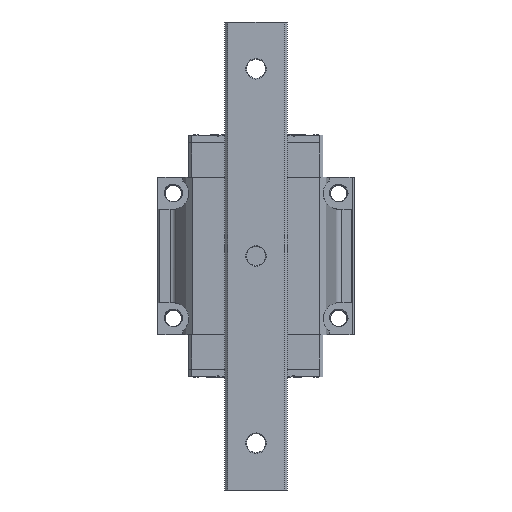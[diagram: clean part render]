
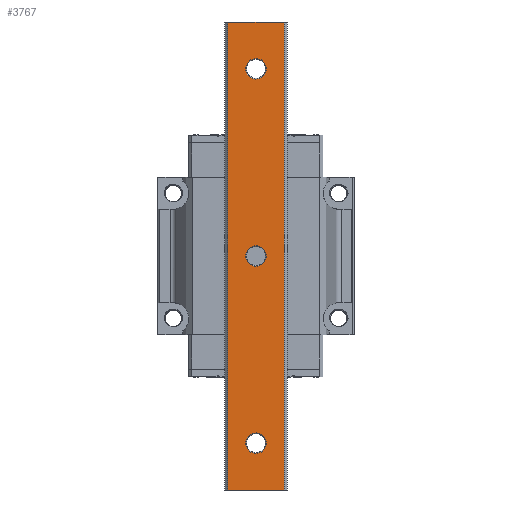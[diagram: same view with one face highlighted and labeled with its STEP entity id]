
A CAD part, front view. The second image highlights one B-rep face of the part: STEP entity #3767.
In plain terms, the highlighted planar face has unit normal (0, -1, 0).
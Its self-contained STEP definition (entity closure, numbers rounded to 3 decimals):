
#3291=FACE_BOUND('',#6319,.T.);
#3292=FACE_BOUND('',#6320,.T.);
#3293=FACE_BOUND('',#6321,.T.);
#3294=FACE_BOUND('',#6322,.T.);
#3767=ADVANCED_FACE('',(#3291,#3292,#3293,#3294),#4798,.T.);
#4798=PLANE('',#21255);
#6319=EDGE_LOOP('',(#10800,#10801,#10802,#10803));
#6320=EDGE_LOOP('',(#10804,#10805,#10806,#10807));
#6321=EDGE_LOOP('',(#10808,#10809,#10810,#10811));
#6322=EDGE_LOOP('',(#10812,#10813,#10814,#10815));
#7474=LINE('',#27362,#9022);
#7513=LINE('',#27486,#9061);
#7514=LINE('',#27488,#9062);
#7515=LINE('',#27490,#9063);
#9022=VECTOR('',#22708,1.);
#9061=VECTOR('',#22831,1.);
#9062=VECTOR('',#22834,1.);
#9063=VECTOR('',#22835,1.);
#10800=ORIENTED_EDGE('',*,*,#18003,.T.);
#10801=ORIENTED_EDGE('',*,*,#18004,.F.);
#10802=ORIENTED_EDGE('',*,*,#18005,.F.);
#10803=ORIENTED_EDGE('',*,*,#17941,.T.);
#10804=ORIENTED_EDGE('',*,*,#18006,.F.);
#10805=ORIENTED_EDGE('',*,*,#18007,.F.);
#10806=ORIENTED_EDGE('',*,*,#18008,.F.);
#10807=ORIENTED_EDGE('',*,*,#18009,.F.);
#10808=ORIENTED_EDGE('',*,*,#18010,.F.);
#10809=ORIENTED_EDGE('',*,*,#18011,.F.);
#10810=ORIENTED_EDGE('',*,*,#18012,.F.);
#10811=ORIENTED_EDGE('',*,*,#18013,.F.);
#10812=ORIENTED_EDGE('',*,*,#18014,.F.);
#10813=ORIENTED_EDGE('',*,*,#18015,.F.);
#10814=ORIENTED_EDGE('',*,*,#18016,.F.);
#10815=ORIENTED_EDGE('',*,*,#18017,.F.);
#16150=VERTEX_POINT('',#27361);
#16151=VERTEX_POINT('',#27363);
#16193=VERTEX_POINT('',#27485);
#16194=VERTEX_POINT('',#27489);
#16195=VERTEX_POINT('',#27492);
#16196=VERTEX_POINT('',#27493);
#16197=VERTEX_POINT('',#27495);
#16198=VERTEX_POINT('',#27497);
#16199=VERTEX_POINT('',#27500);
#16200=VERTEX_POINT('',#27501);
#16201=VERTEX_POINT('',#27503);
#16202=VERTEX_POINT('',#27505);
#16203=VERTEX_POINT('',#27508);
#16204=VERTEX_POINT('',#27509);
#16205=VERTEX_POINT('',#27511);
#16206=VERTEX_POINT('',#27513);
#17941=EDGE_CURVE('',#16151,#16150,#7474,.T.);
#18003=EDGE_CURVE('',#16150,#16193,#7513,.T.);
#18004=EDGE_CURVE('',#16194,#16193,#7514,.T.);
#18005=EDGE_CURVE('',#16151,#16194,#7515,.T.);
#18006=EDGE_CURVE('',#16195,#16196,#20681,.T.);
#18007=EDGE_CURVE('',#16197,#16195,#20682,.T.);
#18008=EDGE_CURVE('',#16198,#16197,#20683,.T.);
#18009=EDGE_CURVE('',#16196,#16198,#20684,.T.);
#18010=EDGE_CURVE('',#16199,#16200,#20685,.T.);
#18011=EDGE_CURVE('',#16201,#16199,#20686,.T.);
#18012=EDGE_CURVE('',#16202,#16201,#20687,.T.);
#18013=EDGE_CURVE('',#16200,#16202,#20688,.T.);
#18014=EDGE_CURVE('',#16203,#16204,#20689,.T.);
#18015=EDGE_CURVE('',#16205,#16203,#20690,.T.);
#18016=EDGE_CURVE('',#16206,#16205,#20691,.T.);
#18017=EDGE_CURVE('',#16204,#16206,#20692,.T.);
#20681=CIRCLE('',#21243,3.3);
#20682=CIRCLE('',#21244,3.3);
#20683=CIRCLE('',#21245,3.3);
#20684=CIRCLE('',#21246,3.3);
#20685=CIRCLE('',#21247,3.3);
#20686=CIRCLE('',#21248,3.3);
#20687=CIRCLE('',#21249,3.3);
#20688=CIRCLE('',#21250,3.3);
#20689=CIRCLE('',#21251,3.3);
#20690=CIRCLE('',#21252,3.3);
#20691=CIRCLE('',#21253,3.3);
#20692=CIRCLE('',#21254,3.3);
#21243=AXIS2_PLACEMENT_3D('',#27491,#22836,#22837);
#21244=AXIS2_PLACEMENT_3D('',#27494,#22838,#22839);
#21245=AXIS2_PLACEMENT_3D('',#27496,#22840,#22841);
#21246=AXIS2_PLACEMENT_3D('',#27498,#22842,#22843);
#21247=AXIS2_PLACEMENT_3D('',#27499,#22844,#22845);
#21248=AXIS2_PLACEMENT_3D('',#27502,#22846,#22847);
#21249=AXIS2_PLACEMENT_3D('',#27504,#22848,#22849);
#21250=AXIS2_PLACEMENT_3D('',#27506,#22850,#22851);
#21251=AXIS2_PLACEMENT_3D('',#27507,#22852,#22853);
#21252=AXIS2_PLACEMENT_3D('',#27510,#22854,#22855);
#21253=AXIS2_PLACEMENT_3D('',#27512,#22856,#22857);
#21254=AXIS2_PLACEMENT_3D('',#27514,#22858,#22859);
#21255=AXIS2_PLACEMENT_3D('',#27515,#22860,#22861);
#22708=DIRECTION('',(1.,0.,0.));
#22831=DIRECTION('',(0.,0.,1.));
#22834=DIRECTION('',(1.,0.,0.));
#22835=DIRECTION('',(0.,0.,1.));
#22836=DIRECTION('',(0.,-1.,0.));
#22837=DIRECTION('',(0.,0.,-1.));
#22838=DIRECTION('',(0.,-1.,0.));
#22839=DIRECTION('',(-1.,0.,0.));
#22840=DIRECTION('',(0.,-1.,0.));
#22841=DIRECTION('',(0.,0.,1.));
#22842=DIRECTION('',(0.,-1.,0.));
#22843=DIRECTION('',(1.,0.,0.));
#22844=DIRECTION('',(0.,-1.,0.));
#22845=DIRECTION('',(0.,0.,1.));
#22846=DIRECTION('',(0.,-1.,0.));
#22847=DIRECTION('',(1.,0.,0.));
#22848=DIRECTION('',(0.,-1.,0.));
#22849=DIRECTION('',(0.,0.,-1.));
#22850=DIRECTION('',(0.,-1.,0.));
#22851=DIRECTION('',(-1.,0.,0.));
#22852=DIRECTION('',(0.,-1.,0.));
#22853=DIRECTION('',(0.,0.,1.));
#22854=DIRECTION('',(0.,-1.,0.));
#22855=DIRECTION('',(1.,0.,0.));
#22856=DIRECTION('',(0.,-1.,0.));
#22857=DIRECTION('',(0.,0.,-1.));
#22858=DIRECTION('',(0.,-1.,0.));
#22859=DIRECTION('',(-1.,0.,0.));
#22860=DIRECTION('',(0.,-1.,0.));
#22861=DIRECTION('',(1.,0.,0.));
#27361=CARTESIAN_POINT('',(9.,-17.5,-75.));
#27362=CARTESIAN_POINT('',(-9.,-17.5,-75.));
#27363=CARTESIAN_POINT('',(-9.,-17.5,-75.));
#27485=CARTESIAN_POINT('',(9.,-17.5,75.));
#27486=CARTESIAN_POINT('',(9.,-17.5,-75.));
#27488=CARTESIAN_POINT('',(-9.,-17.5,75.));
#27489=CARTESIAN_POINT('',(-9.,-17.5,75.));
#27490=CARTESIAN_POINT('',(-9.,-17.5,-75.));
#27491=CARTESIAN_POINT('',(0.,-17.5,-60.));
#27492=CARTESIAN_POINT('',(0.,-17.5,-63.3));
#27493=CARTESIAN_POINT('',(3.3,-17.5,-60.));
#27494=CARTESIAN_POINT('',(0.,-17.5,-60.));
#27495=CARTESIAN_POINT('',(-3.3,-17.5,-60.));
#27496=CARTESIAN_POINT('',(0.,-17.5,-60.));
#27497=CARTESIAN_POINT('',(0.,-17.5,-56.7));
#27498=CARTESIAN_POINT('',(0.,-17.5,-60.));
#27499=CARTESIAN_POINT('',(0.,-17.5,0.));
#27500=CARTESIAN_POINT('',(0.,-17.5,3.3));
#27501=CARTESIAN_POINT('',(-3.3,-17.5,0.));
#27502=CARTESIAN_POINT('',(0.,-17.5,0.));
#27503=CARTESIAN_POINT('',(3.3,-17.5,0.));
#27504=CARTESIAN_POINT('',(0.,-17.5,0.));
#27505=CARTESIAN_POINT('',(0.,-17.5,-3.3));
#27506=CARTESIAN_POINT('',(0.,-17.5,0.));
#27507=CARTESIAN_POINT('',(0.,-17.5,60.));
#27508=CARTESIAN_POINT('',(0.,-17.5,63.3));
#27509=CARTESIAN_POINT('',(-3.3,-17.5,60.));
#27510=CARTESIAN_POINT('',(0.,-17.5,60.));
#27511=CARTESIAN_POINT('',(3.3,-17.5,60.));
#27512=CARTESIAN_POINT('',(0.,-17.5,60.));
#27513=CARTESIAN_POINT('',(0.,-17.5,56.7));
#27514=CARTESIAN_POINT('',(0.,-17.5,60.));
#27515=CARTESIAN_POINT('',(-9.,-17.5,-75.));
